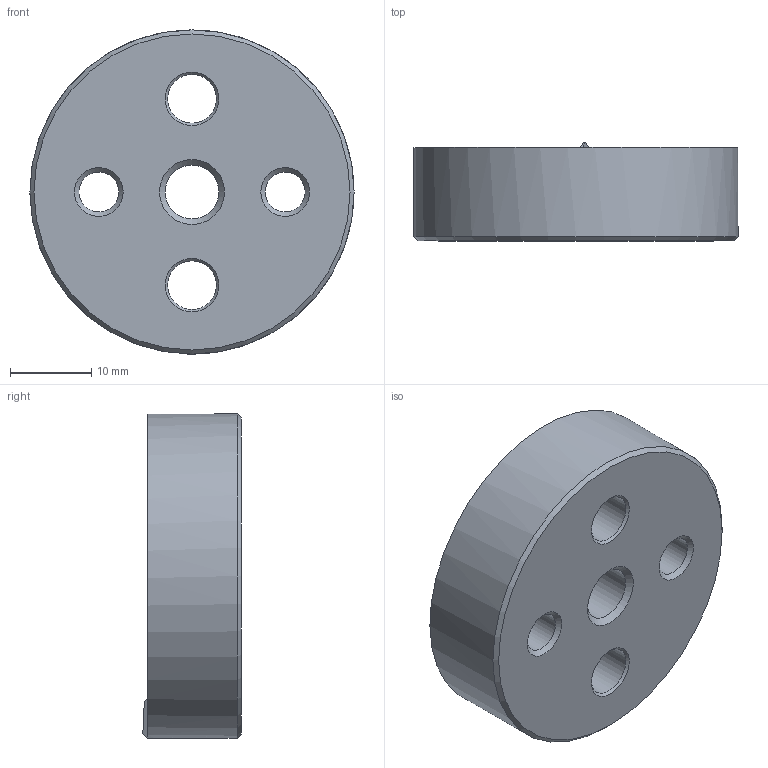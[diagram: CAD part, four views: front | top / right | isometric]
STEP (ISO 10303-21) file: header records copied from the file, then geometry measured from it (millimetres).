
FILE_DESCRIPTION( ( 'STEP AP203' ), '1' );
FILE_NAME( 'C:/Temp/Ganter_Step_05_03_2020/data/3_2/gn187_4/gn187_4_st/Serrated locking plate GN 187.4-40-60-C-ST.stp', '2020-03-13T05:25:44', ( 'License CC BY-ND 4.0' ), ( 'CADENAS' ), ' ', 'PARTsolutions', ' ' );
FILE_SCHEMA( ( 'CONFIG_CONTROL_DESIGN' ) );
Length unit declared in the file: millimetre
Products named in the file (1): _Serrated locking plate GN 187.4-40-60-C-ST
Bounding box: 40 x 12.13 x 40 mm (x, y, z)
Volume: 12057.8 mm3; surface area: 4666.3 mm2
Topology: 1 solids, 1 shells, 30 faces, 74 edges, 46 vertices
Faces by surface type: cone 14, cylinder 9, plane 7
Full cylindrical faces by diameter (mm): 4.917 x2, 6 x2, 6.647 x1, 30 x1, 40 x1
Entity records: 924 total; most frequent: CARTESIAN_POINT 229, DIRECTION 142, ORIENTED_EDGE 106, AXIS2_PLACEMENT_3D 68, EDGE_LOOP 58, EDGE_CURVE 53, VERTEX_POINT 43, FACE_OUTER_BOUND 37
